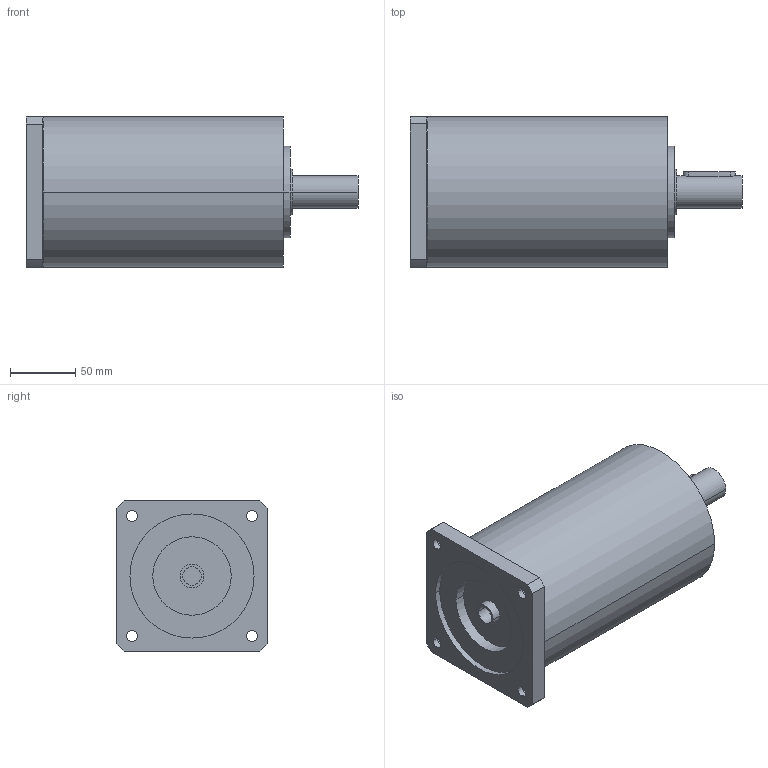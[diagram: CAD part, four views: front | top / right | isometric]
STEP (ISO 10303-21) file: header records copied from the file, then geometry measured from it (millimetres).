
FILE_DESCRIPTION(('CoCreate Modeling STEP Export'),'2;1');
FILE_NAME('GPR125_ig-48-64-80-100-140-196-245-343_25_B14_14_P18.stp','2014-08-26T14:20:53',(''),(''),'CoCreate Modeling STEP processor for AP214 (Solid Model)','CoCreate Modeling 16.00C 25-Feb-2009 (C) Parametric Technology GmbH','');
FILE_SCHEMA(('AUTOMOTIVE_DESIGN { 1 0 10303 214 1 1 1 1 }'));
Length unit declared in the file: millimetre
Products named in the file (2): GPR125_ig-48-64-80-100-140-196-245-343_25_B14_14_P18
Assembly tree (1 placements, depth 2):
  GPR125_ig-48-64-80-100-140-196-245-343_25_B14_14_P18
    GPR125_ig-48-64-80-100-140-196-245-343_25_B14_14_P18
Bounding box: 254 x 115 x 115 mm (x, y, z)
Volume: 2059343 mm3; surface area: 113060.7 mm2
Topology: 1 solids, 1 shells, 77 faces, 212 edges, 152 vertices
Faces by surface type: cylinder 48, plane 25, cone 4
Entity records: 2153 total; most frequent: ORIENTED_EDGE 420, CARTESIAN_POINT 399, DIRECTION 288, EDGE_CURVE 210, VERTEX_POINT 152, AXIS2_PLACEMENT_3D 109, EDGE_LOOP 102, FACE_OUTER_BOUND 77
